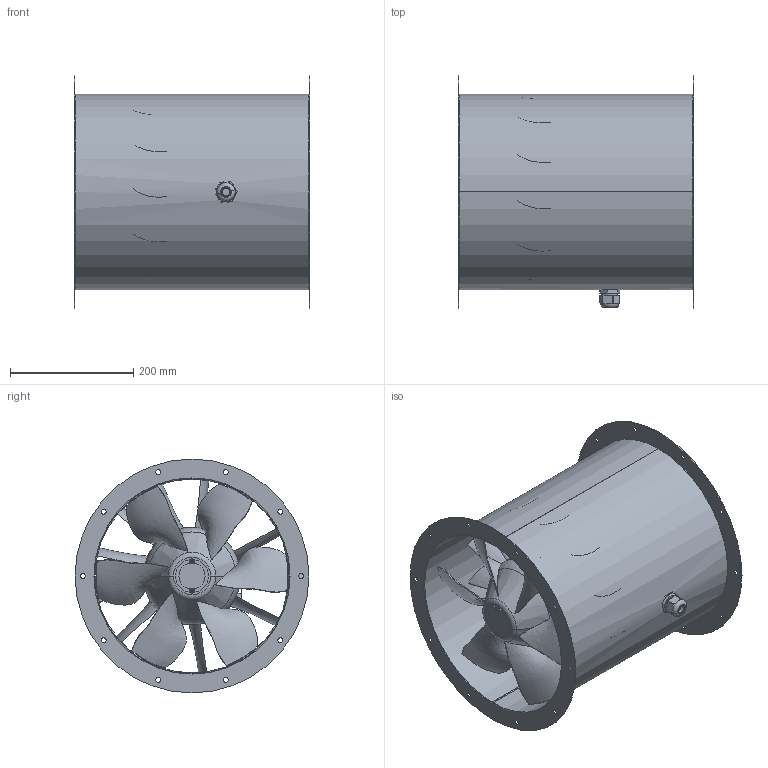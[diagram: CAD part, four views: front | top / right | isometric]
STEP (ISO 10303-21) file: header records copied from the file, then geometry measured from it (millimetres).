
FILE_DESCRIPTION (( 'STEP AP203' ), '1' );
FILE_NAME ('154132-00_AL315D401_step.step', '2020-05-29T10:43:32', ( '' ), ( '' ), 'SwSTEP 2.0', 'SolidWorks 2017', '' );
FILE_SCHEMA (( 'CONFIG_CONTROL_DESIGN' ));
Length unit declared in the file: millimetre
Products named in the file (1): 154132-00_AL315D401_step
Bounding box: 383 x 380 x 380 mm (x, y, z)
Surface area: 1177991.9 mm2 (no closed solid volume)
Topology: 0 solids, 33 shells, 544 faces, 1846 edges, 1296 vertices
Faces by surface type: plane 382, cylinder 96, bspline 35, torus 22, cone 9
Entity records: 233797 total; most frequent: CARTESIAN_POINT 218390, DIRECTION 2882, ORIENTED_EDGE 2834, EDGE_CURVE 1846, VECTOR 1330, LINE 1330, VERTEX_POINT 1296, AXIS2_PLACEMENT_3D 776
